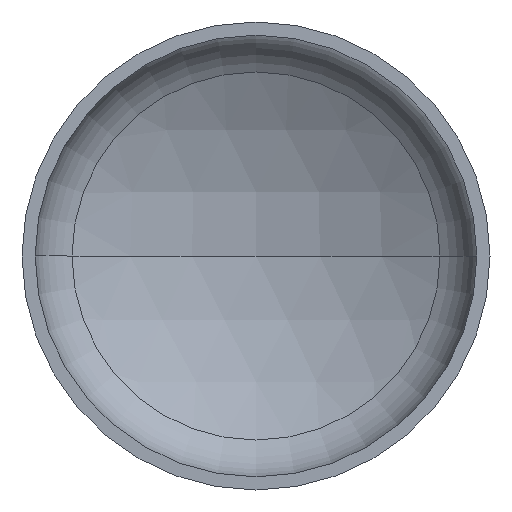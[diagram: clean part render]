
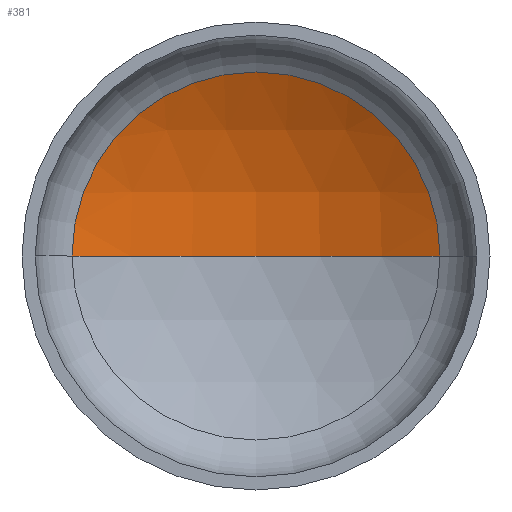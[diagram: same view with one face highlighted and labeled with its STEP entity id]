
A CAD part, front view. The second image highlights one B-rep face of the part: STEP entity #381.
In plain terms, the highlighted spherical face has radius 880 mm.
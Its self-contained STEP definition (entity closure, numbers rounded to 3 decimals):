
#3 = DIRECTION ( 'NONE',  ( 1., 0., 0. ) ) ;
#5 = CARTESIAN_POINT ( 'NONE',  ( 0., -518.303, 0. ) ) ;
#9 = AXIS2_PLACEMENT_3D ( 'NONE', #186, #294, #221 ) ;
#11 = EDGE_LOOP ( 'NONE', ( #133, #140, #99 ) ) ;
#45 = AXIS2_PLACEMENT_3D ( 'NONE', #5, #348, #296 ) ;
#50 = AXIS2_PLACEMENT_3D ( 'NONE', #188, #355, #3 ) ;
#61 = VERTEX_POINT ( 'NONE', #237 ) ;
#93 = EDGE_CURVE ( 'NONE', #103, #163, #114, .T. ) ;
#99 = ORIENTED_EDGE ( 'NONE', *, *, #93, .T. ) ;
#103 = VERTEX_POINT ( 'NONE', #204 ) ;
#111 = EDGE_CURVE ( 'NONE', #61, #103, #316, .T. ) ;
#114 = CIRCLE ( 'NONE', #50, 432.563 ) ;
#133 = ORIENTED_EDGE ( 'NONE', *, *, #349, .F. ) ;
#140 = ORIENTED_EDGE ( 'NONE', *, *, #111, .T. ) ;
#143 = AXIS2_PLACEMENT_3D ( 'NONE', #399, #307, #377 ) ;
#163 = VERTEX_POINT ( 'NONE', #276 ) ;
#167 = CIRCLE ( 'NONE', #9, 880. ) ;
#186 = CARTESIAN_POINT ( 'NONE',  ( 0., -518.303, 0. ) ) ;
#188 = CARTESIAN_POINT ( 'NONE',  ( 0., 248.044, 0. ) ) ;
#204 = CARTESIAN_POINT ( 'NONE',  ( 432.563, 248.044, 0. ) ) ;
#221 = DIRECTION ( 'NONE',  ( 1., 0., 0. ) ) ;
#237 = CARTESIAN_POINT ( 'NONE',  ( 0., 361.697, 0. ) ) ;
#276 = CARTESIAN_POINT ( 'NONE',  ( -432.563, 248.044, 0. ) ) ;
#294 = DIRECTION ( 'NONE',  ( 0., 0., 1. ) ) ;
#296 = DIRECTION ( 'NONE',  ( -1., 0., 0. ) ) ;
#307 = DIRECTION ( 'NONE',  ( 0., 0., -1. ) ) ;
#316 = CIRCLE ( 'NONE', #45, 880. ) ;
#348 = DIRECTION ( 'NONE',  ( 0., 0., -1. ) ) ;
#349 = EDGE_CURVE ( 'NONE', #61, #163, #167, .T. ) ;
#355 = DIRECTION ( 'NONE',  ( 0., -1., 0. ) ) ;
#377 = DIRECTION ( 'NONE',  ( -1., 0., 0. ) ) ;
#381 = ADVANCED_FACE ( 'NONE', ( #400 ), #390, .F. ) ;
#390 = SPHERICAL_SURFACE ( 'NONE', #143, 880. ) ;
#399 = CARTESIAN_POINT ( 'NONE',  ( 0., -518.303, 0. ) ) ;
#400 = FACE_OUTER_BOUND ( 'NONE', #11, .T. ) ;
